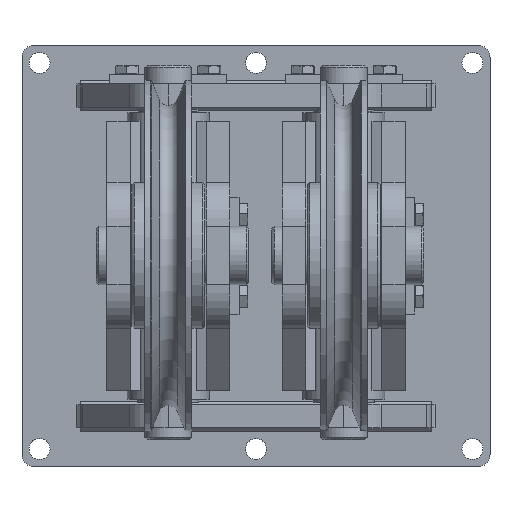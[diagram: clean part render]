
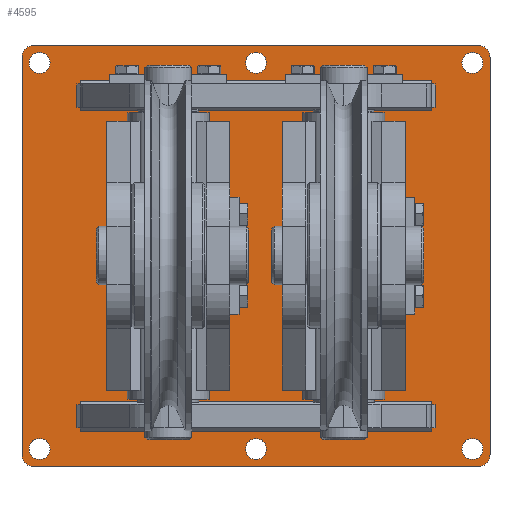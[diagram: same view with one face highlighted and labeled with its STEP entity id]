
A CAD part, top view. The second image highlights one B-rep face of the part: STEP entity #4595.
In plain terms, the highlighted planar face has unit normal (0, 0, 1).
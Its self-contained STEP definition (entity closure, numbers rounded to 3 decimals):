
#231=FACE_BOUND('',#1111,.T.);
#232=FACE_BOUND('',#1112,.T.);
#233=FACE_BOUND('',#1113,.T.);
#234=FACE_BOUND('',#1114,.T.);
#235=FACE_BOUND('',#1115,.T.);
#236=FACE_BOUND('',#1116,.T.);
#304=CIRCLE('',#5307,9.);
#305=CIRCLE('',#5308,9.);
#307=CIRCLE('',#5311,9.);
#308=CIRCLE('',#5312,9.);
#310=CIRCLE('',#5315,9.);
#311=CIRCLE('',#5316,9.);
#313=CIRCLE('',#5319,9.);
#314=CIRCLE('',#5320,9.);
#316=CIRCLE('',#5323,9.);
#317=CIRCLE('',#5324,9.);
#319=CIRCLE('',#5327,9.);
#320=CIRCLE('',#5328,9.);
#322=CIRCLE('',#5331,10.);
#324=CIRCLE('',#5335,10.);
#325=CIRCLE('',#5336,10.);
#326=CIRCLE('',#5337,10.);
#848=FACE_OUTER_BOUND('',#1110,.T.);
#1110=EDGE_LOOP('',(#3290,#3291,#3292,#3293,#3294,#3295,#3296,#3297));
#1111=EDGE_LOOP('',(#3298,#3299));
#1112=EDGE_LOOP('',(#3300,#3301));
#1113=EDGE_LOOP('',(#3302,#3303));
#1114=EDGE_LOOP('',(#3304,#3305));
#1115=EDGE_LOOP('',(#3306,#3307));
#1116=EDGE_LOOP('',(#3308,#3309));
#1477=LINE('',#7763,#1781);
#1480=LINE('',#7769,#1784);
#1481=LINE('',#7773,#1785);
#1482=LINE('',#7777,#1786);
#1781=VECTOR('',#6144,10.);
#1784=VECTOR('',#6149,10.);
#1785=VECTOR('',#6152,10.);
#1786=VECTOR('',#6155,10.);
#2053=VERTEX_POINT('',#7705);
#2054=VERTEX_POINT('',#7706);
#2056=VERTEX_POINT('',#7713);
#2057=VERTEX_POINT('',#7714);
#2059=VERTEX_POINT('',#7721);
#2060=VERTEX_POINT('',#7722);
#2062=VERTEX_POINT('',#7729);
#2063=VERTEX_POINT('',#7730);
#2065=VERTEX_POINT('',#7737);
#2066=VERTEX_POINT('',#7738);
#2068=VERTEX_POINT('',#7745);
#2069=VERTEX_POINT('',#7746);
#2071=VERTEX_POINT('',#7753);
#2072=VERTEX_POINT('',#7754);
#2075=VERTEX_POINT('',#7762);
#2077=VERTEX_POINT('',#7768);
#2078=VERTEX_POINT('',#7770);
#2079=VERTEX_POINT('',#7772);
#2080=VERTEX_POINT('',#7774);
#2081=VERTEX_POINT('',#7776);
#2533=EDGE_CURVE('',#2053,#2054,#304,.T.);
#2534=EDGE_CURVE('',#2054,#2053,#305,.T.);
#2537=EDGE_CURVE('',#2056,#2057,#307,.T.);
#2538=EDGE_CURVE('',#2057,#2056,#308,.T.);
#2541=EDGE_CURVE('',#2059,#2060,#310,.T.);
#2542=EDGE_CURVE('',#2060,#2059,#311,.T.);
#2545=EDGE_CURVE('',#2062,#2063,#313,.T.);
#2546=EDGE_CURVE('',#2063,#2062,#314,.T.);
#2549=EDGE_CURVE('',#2065,#2066,#316,.T.);
#2550=EDGE_CURVE('',#2066,#2065,#317,.T.);
#2553=EDGE_CURVE('',#2068,#2069,#319,.T.);
#2554=EDGE_CURVE('',#2069,#2068,#320,.T.);
#2557=EDGE_CURVE('',#2071,#2072,#322,.T.);
#2561=EDGE_CURVE('',#2075,#2072,#1477,.T.);
#2564=EDGE_CURVE('',#2071,#2077,#1480,.T.);
#2565=EDGE_CURVE('',#2078,#2077,#324,.T.);
#2566=EDGE_CURVE('',#2078,#2079,#1481,.T.);
#2567=EDGE_CURVE('',#2080,#2079,#325,.T.);
#2568=EDGE_CURVE('',#2080,#2081,#1482,.T.);
#2569=EDGE_CURVE('',#2075,#2081,#326,.T.);
#3290=ORIENTED_EDGE('',*,*,#2557,.F.);
#3291=ORIENTED_EDGE('',*,*,#2564,.T.);
#3292=ORIENTED_EDGE('',*,*,#2565,.F.);
#3293=ORIENTED_EDGE('',*,*,#2566,.T.);
#3294=ORIENTED_EDGE('',*,*,#2567,.F.);
#3295=ORIENTED_EDGE('',*,*,#2568,.T.);
#3296=ORIENTED_EDGE('',*,*,#2569,.F.);
#3297=ORIENTED_EDGE('',*,*,#2561,.T.);
#3298=ORIENTED_EDGE('',*,*,#2533,.T.);
#3299=ORIENTED_EDGE('',*,*,#2534,.T.);
#3300=ORIENTED_EDGE('',*,*,#2537,.T.);
#3301=ORIENTED_EDGE('',*,*,#2538,.T.);
#3302=ORIENTED_EDGE('',*,*,#2541,.T.);
#3303=ORIENTED_EDGE('',*,*,#2542,.T.);
#3304=ORIENTED_EDGE('',*,*,#2545,.T.);
#3305=ORIENTED_EDGE('',*,*,#2546,.T.);
#3306=ORIENTED_EDGE('',*,*,#2549,.T.);
#3307=ORIENTED_EDGE('',*,*,#2550,.T.);
#3308=ORIENTED_EDGE('',*,*,#2553,.T.);
#3309=ORIENTED_EDGE('',*,*,#2554,.T.);
#4443=PLANE('',#5334);
#4595=ADVANCED_FACE('',(#848,#231,#232,#233,#234,#235,#236),#4443,.T.);
#5307=AXIS2_PLACEMENT_3D('',#7707,#6082,#6083);
#5308=AXIS2_PLACEMENT_3D('',#7708,#6084,#6085);
#5311=AXIS2_PLACEMENT_3D('',#7715,#6091,#6092);
#5312=AXIS2_PLACEMENT_3D('',#7716,#6093,#6094);
#5315=AXIS2_PLACEMENT_3D('',#7723,#6100,#6101);
#5316=AXIS2_PLACEMENT_3D('',#7724,#6102,#6103);
#5319=AXIS2_PLACEMENT_3D('',#7731,#6109,#6110);
#5320=AXIS2_PLACEMENT_3D('',#7732,#6111,#6112);
#5323=AXIS2_PLACEMENT_3D('',#7739,#6118,#6119);
#5324=AXIS2_PLACEMENT_3D('',#7740,#6120,#6121);
#5327=AXIS2_PLACEMENT_3D('',#7747,#6127,#6128);
#5328=AXIS2_PLACEMENT_3D('',#7748,#6129,#6130);
#5331=AXIS2_PLACEMENT_3D('',#7755,#6136,#6137);
#5334=AXIS2_PLACEMENT_3D('',#7767,#6147,#6148);
#5335=AXIS2_PLACEMENT_3D('',#7771,#6150,#6151);
#5336=AXIS2_PLACEMENT_3D('',#7775,#6153,#6154);
#5337=AXIS2_PLACEMENT_3D('',#7778,#6156,#6157);
#6082=DIRECTION('center_axis',(0.,0.,-1.));
#6083=DIRECTION('ref_axis',(1.,0.,0.));
#6084=DIRECTION('center_axis',(0.,0.,-1.));
#6085=DIRECTION('ref_axis',(1.,0.,0.));
#6091=DIRECTION('center_axis',(0.,0.,-1.));
#6092=DIRECTION('ref_axis',(1.,0.,0.));
#6093=DIRECTION('center_axis',(0.,0.,-1.));
#6094=DIRECTION('ref_axis',(1.,0.,0.));
#6100=DIRECTION('center_axis',(0.,0.,-1.));
#6101=DIRECTION('ref_axis',(1.,0.,0.));
#6102=DIRECTION('center_axis',(0.,0.,-1.));
#6103=DIRECTION('ref_axis',(1.,0.,0.));
#6109=DIRECTION('center_axis',(0.,0.,-1.));
#6110=DIRECTION('ref_axis',(1.,0.,0.));
#6111=DIRECTION('center_axis',(0.,0.,-1.));
#6112=DIRECTION('ref_axis',(1.,0.,0.));
#6118=DIRECTION('center_axis',(0.,0.,-1.));
#6119=DIRECTION('ref_axis',(1.,0.,0.));
#6120=DIRECTION('center_axis',(0.,0.,-1.));
#6121=DIRECTION('ref_axis',(1.,0.,0.));
#6127=DIRECTION('center_axis',(0.,0.,-1.));
#6128=DIRECTION('ref_axis',(1.,0.,0.));
#6129=DIRECTION('center_axis',(0.,0.,-1.));
#6130=DIRECTION('ref_axis',(1.,0.,0.));
#6136=DIRECTION('center_axis',(0.,0.,-1.));
#6137=DIRECTION('ref_axis',(0.707,-0.707,0.));
#6144=DIRECTION('',(1.,0.,0.));
#6147=DIRECTION('center_axis',(0.,0.,1.));
#6148=DIRECTION('ref_axis',(1.,0.,0.));
#6149=DIRECTION('',(0.,1.,0.));
#6150=DIRECTION('center_axis',(0.,0.,-1.));
#6151=DIRECTION('ref_axis',(0.707,0.707,0.));
#6152=DIRECTION('',(-1.,0.,0.));
#6153=DIRECTION('center_axis',(0.,0.,-1.));
#6154=DIRECTION('ref_axis',(-0.707,0.707,0.));
#6155=DIRECTION('',(0.,-1.,0.));
#6156=DIRECTION('center_axis',(0.,0.,-1.));
#6157=DIRECTION('ref_axis',(-0.707,-0.707,0.));
#7705=CARTESIAN_POINT('',(9.,165.,20.));
#7706=CARTESIAN_POINT('',(-9.,165.,20.));
#7707=CARTESIAN_POINT('Origin',(0.,165.,20.));
#7708=CARTESIAN_POINT('Origin',(0.,165.,20.));
#7713=CARTESIAN_POINT('',(9.,-165.,20.));
#7714=CARTESIAN_POINT('',(-9.,-165.,20.));
#7715=CARTESIAN_POINT('Origin',(0.,-165.,20.));
#7716=CARTESIAN_POINT('Origin',(0.,-165.,20.));
#7721=CARTESIAN_POINT('',(194.,-165.,20.));
#7722=CARTESIAN_POINT('',(176.,-165.,20.));
#7723=CARTESIAN_POINT('Origin',(185.,-165.,20.));
#7724=CARTESIAN_POINT('Origin',(185.,-165.,20.));
#7729=CARTESIAN_POINT('',(-176.,165.,20.));
#7730=CARTESIAN_POINT('',(-194.,165.,20.));
#7731=CARTESIAN_POINT('Origin',(-185.,165.,20.));
#7732=CARTESIAN_POINT('Origin',(-185.,165.,20.));
#7737=CARTESIAN_POINT('',(194.,165.,20.));
#7738=CARTESIAN_POINT('',(176.,165.,20.));
#7739=CARTESIAN_POINT('Origin',(185.,165.,20.));
#7740=CARTESIAN_POINT('Origin',(185.,165.,20.));
#7745=CARTESIAN_POINT('',(-176.,-165.,20.));
#7746=CARTESIAN_POINT('',(-194.,-165.,20.));
#7747=CARTESIAN_POINT('Origin',(-185.,-165.,20.));
#7748=CARTESIAN_POINT('Origin',(-185.,-165.,20.));
#7753=CARTESIAN_POINT('',(200.,-170.,20.));
#7754=CARTESIAN_POINT('',(190.,-180.,20.));
#7755=CARTESIAN_POINT('Origin',(190.,-170.,20.));
#7762=CARTESIAN_POINT('',(-190.,-180.,20.));
#7763=CARTESIAN_POINT('',(200.,-180.,20.));
#7767=CARTESIAN_POINT('Origin',(0.,0.,20.));
#7768=CARTESIAN_POINT('',(200.,170.,20.));
#7769=CARTESIAN_POINT('',(200.,180.,20.));
#7770=CARTESIAN_POINT('',(190.,180.,20.));
#7771=CARTESIAN_POINT('Origin',(190.,170.,20.));
#7772=CARTESIAN_POINT('',(-190.,180.,20.));
#7773=CARTESIAN_POINT('',(-200.,180.,20.));
#7774=CARTESIAN_POINT('',(-200.,170.,20.));
#7775=CARTESIAN_POINT('Origin',(-190.,170.,20.));
#7776=CARTESIAN_POINT('',(-200.,-170.,20.));
#7777=CARTESIAN_POINT('',(-200.,-180.,20.));
#7778=CARTESIAN_POINT('Origin',(-190.,-170.,20.));
